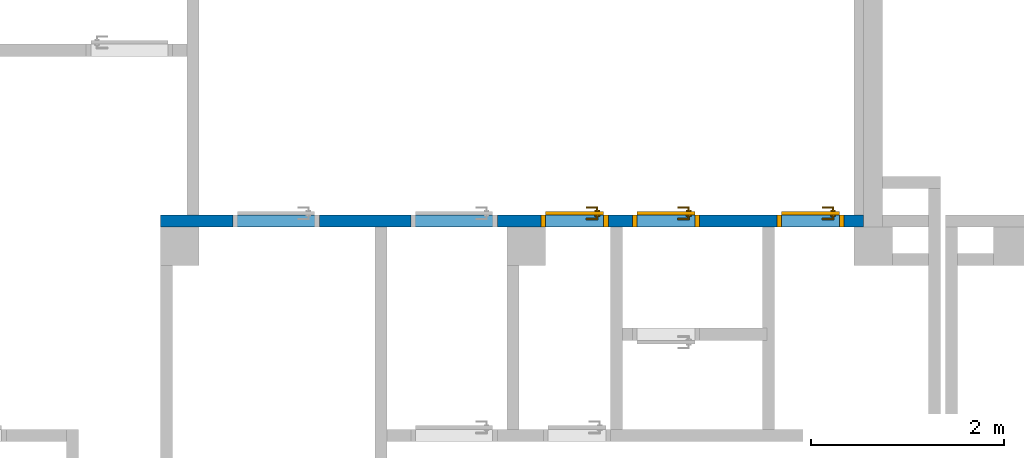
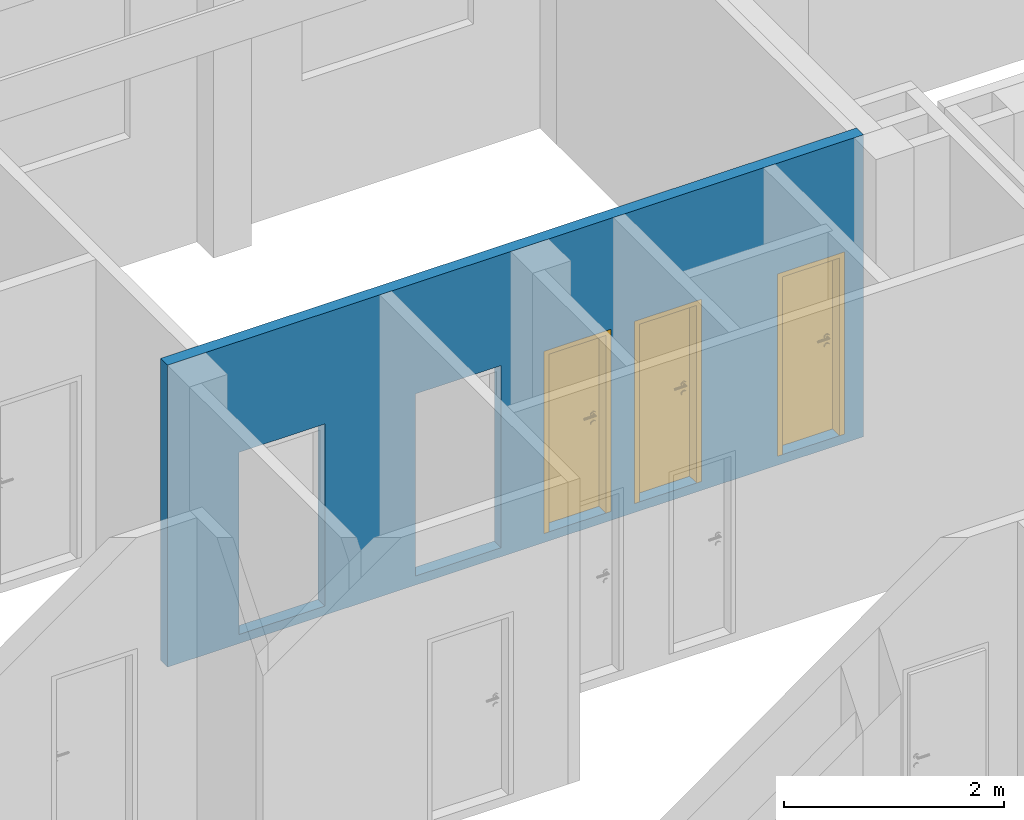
# One storey, part 16 of 37: 3 doors, 1 wall, 5 openings.
"""IFC4 building model written with IfcOpenShell, lengths in metres."""

import ifcopenshell
import ifcopenshell.guid

model = None  # the IFC model being written
_history = None  # IfcOwnerHistory: only IFC2X3 demands one
_inside = {}  # id of a spatial element -> (the spatial element, [elements in it])
_under = {}  # id of a project, library or spatial element -> (it, [spatial elements below it])
_declared = {}  # id of a project -> (the project, [libraries it declares])
_typed = {}  # id of a type object -> (the type object, [elements of that type])
_made_of = {}  # id of a material, layer set ... -> (it, [elements and type objects made of it])


def new_model(schema):
    """Start an empty IFC model of exactly this schema.

    Asked for "IFC4X3", IfcOpenShell would pick the latest addendum, in which some entities
    have other attributes; the version numbers below select the first issue.
    IFC2X3 requires an IfcOwnerHistory on every rooted entity: one is made here for all.
    """
    global model, _history
    if schema == "IFC4X3":
        model = ifcopenshell.file(schema_version=(4, 3, 0, 0))
    else:
        model = ifcopenshell.file(schema=schema)
    _inside.clear()
    _under.clear()
    _declared.clear()
    _typed.clear()
    _made_of.clear()
    _history = None
    if model.schema == "IFC2X3":
        org = make("IfcOrganization", Name="unknown")
        user = make(
            "IfcPersonAndOrganization",
            ThePerson=make("IfcPerson", FamilyName="unknown"),
            TheOrganization=org,
        )
        app = make(
            "IfcApplication",
            ApplicationDeveloper=org,
            Version="unknown",
            ApplicationFullName="unknown",
            ApplicationIdentifier="unknown",
        )
        _history = make(
            "IfcOwnerHistory",
            OwningUser=user,
            OwningApplication=app,
            ChangeAction="ADDED",
            CreationDate=0,
        )
    return model


def make(cls, **values):
    """One entity of the class cls with the attributes given. An attribute that is None is left unset."""
    return model.create_entity(
        cls, **{name: value for name, value in values.items() if value is not None}
    )


def entity(cls, *values):
    """Any entity or typed value of the class cls, its attributes in the order of the schema. None: left unset."""
    e = model.create_entity(cls)
    for i, value in enumerate(values):
        if value is not None:
            e[i] = value
    return e


def rooted(cls, **values):
    """An entity with a GlobalId (a new one), such as an element, a storey or a relation."""
    return make(cls, GlobalId=ifcopenshell.guid.new(), OwnerHistory=_history, **values)


def si_unit(unit_type, name, prefix=None):
    """IfcSIUnit, for example si_unit("LENGTHUNIT", "METRE", prefix="MILLI")."""
    return make("IfcSIUnit", UnitType=unit_type, Prefix=prefix, Name=name)


def converted_unit(unit_type, name, factor, base, dimensions=None, offset=None):
    """IfcConversionBasedUnit, such as the inch: factor (a typed value) times the base unit."""
    return make(
        "IfcConversionBasedUnit"
        if offset is None
        else "IfcConversionBasedUnitWithOffset",
        ConversionOffset=offset,
        Dimensions=None
        if dimensions is None
        else entity("IfcDimensionalExponents", *dimensions),
        UnitType=unit_type,
        Name=name,
        ConversionFactor=make(
            "IfcMeasureWithUnit", ValueComponent=factor, UnitComponent=base
        ),
    )


def derived_unit(unit_type, elements):
    """IfcDerivedUnit: a product of units, each with its exponent."""
    return make(
        "IfcDerivedUnit",
        Elements=[
            make("IfcDerivedUnitElement", Unit=unit, Exponent=power)
            for unit, power in elements
        ],
        UnitType=unit_type,
    )


def assignment(units):
    """IfcUnitAssignment: the units of a project."""
    return None if units is None else make("IfcUnitAssignment", Units=units)


def point(xyz):
    """IfcCartesianPoint."""
    return None if xyz is None else make("IfcCartesianPoint", Coordinates=xyz)


def direction(xyz):
    """IfcDirection."""
    return None if xyz is None else make("IfcDirection", DirectionRatios=xyz)


def frame(location, z_axis=None, x_axis=None):
    """IfcAxis2Placement3D, a coordinate frame: its origin and axes. An axis left out is left unset."""
    return make(
        "IfcAxis2Placement3D",
        Location=point(location),
        Axis=direction(z_axis),
        RefDirection=direction(x_axis),
    )


def frame_2d(location, x_axis=None):
    """IfcAxis2Placement2D, a coordinate frame in the plane: its origin and x axis."""
    return make(
        "IfcAxis2Placement2D", Location=point(location), RefDirection=direction(x_axis)
    )


def origin():
    """The frame at (0, 0, 0) with its axes left unset."""
    return frame((0.0, 0.0, 0.0))


def origin_with_axes():
    """The frame at (0, 0, 0) with the z axis (0, 0, 1) and the x axis (1, 0, 0) written out."""
    return frame((0.0, 0.0, 0.0), z_axis=(0.0, 0.0, 1.0), x_axis=(1.0, 0.0, 0.0))


def place(relative_to, where):
    """IfcLocalPlacement: puts the frame where relative to a parent placement (None: the world)."""
    return make(
        "IfcLocalPlacement", PlacementRelTo=relative_to, RelativePlacement=where
    )


def context(
    kind, dimensions, precision=None, world=None, true_north=None, identifier=None
):
    """IfcGeometricRepresentationContext, for example the 3D "Model" context."""
    return make(
        "IfcGeometricRepresentationContext",
        ContextIdentifier=identifier,
        ContextType=kind,
        CoordinateSpaceDimension=dimensions,
        Precision=precision,
        WorldCoordinateSystem=world,
        TrueNorth=true_north,
    )


def subcontext(parent, identifier, kind, view, scale=None):
    """IfcGeometricRepresentationSubContext, for example "Body" below "Model"."""
    return make(
        "IfcGeometricRepresentationSubContext",
        ContextIdentifier=identifier,
        ContextType=kind,
        ParentContext=parent,
        TargetScale=scale,
        TargetView=view,
    )


def project(units=None, contexts=None):
    """IfcProject with its units and contexts."""
    return rooted(
        "IfcProject",
        Name="project",
        RepresentationContexts=contexts,
        UnitsInContext=assignment(units),
    )


def spatial(cls, under=None, at=None, **own):
    """A site, building, storey or space (cls), placed at a placement, below another one or the project."""
    s = rooted(cls, ObjectPlacement=at, **own)
    if under is not None:
        _under.setdefault(under.id(), (under, []))[1].append(s)
    return s


def polyline(points):
    """IfcPolyline through the points."""
    return make("IfcPolyline", Points=[point(p) for p in points])


def profile(cls, at=None, kind="AREA", **sizes):
    """A parametric profile (cls). Its sizes go by their IFC names, for example OverallWidth=200.0."""
    return make(cls, ProfileType=kind, Position=at, **sizes)


def rectangle(**sizes):
    """IfcRectangleProfileDef."""
    return profile("IfcRectangleProfileDef", **sizes)


def outline(outer, holes=None, kind="AREA"):
    """IfcArbitraryClosedProfileDef: a profile drawn as a closed curve; with holes, ...WithVoids."""
    if holes is None:
        return make("IfcArbitraryClosedProfileDef", ProfileType=kind, OuterCurve=outer)
    return make(
        "IfcArbitraryProfileDefWithVoids",
        ProfileType=kind,
        OuterCurve=outer,
        InnerCurves=holes,
    )


def extrude(swept, where, along, depth):
    """IfcExtrudedAreaSolid: the profile swept, set in the frame where, extruded along a direction by depth."""
    return make(
        "IfcExtrudedAreaSolid",
        SweptArea=swept,
        Position=where,
        ExtrudedDirection=direction(along),
        Depth=depth,
    )


def faces_of(points, faces, orient=None, outer=None):
    """IfcFace entities. A face is a list of loops; a loop is a list of indices into points, from 0.

    orient and outer hold one flag for each loop. By default every Orientation is true, the
    first loop of a face is its IfcFaceOuterBound and the others are IfcFaceBound.
    """
    made = []
    for i, loops in enumerate(faces):
        bounds = []
        for j, loop in enumerate(loops):
            is_outer = j == 0 if outer is None else outer[i][j]
            bounds.append(
                make(
                    "IfcFaceOuterBound" if is_outer else "IfcFaceBound",
                    Bound=make("IfcPolyLoop", Polygon=[points[k] for k in loop]),
                    Orientation=True if orient is None else orient[i][j],
                )
            )
        made.append(make("IfcFace", Bounds=bounds))
    return made


def closed_shell(faces, orient=None, outer=None):
    """The faces of one IfcClosedShell. faceted_brep and surface_model build it on their shared points."""
    return ("IfcClosedShell", faces, orient, outer)


def open_shell(faces, orient=None, outer=None):
    """The faces of one IfcOpenShell. surface_model builds it on its shared points."""
    return ("IfcOpenShell", faces, orient, outer)


def surface_model(cls, points, shells):
    """IfcFaceBasedSurfaceModel or IfcShellBasedSurfaceModel (cls): surfaces that need not close."""
    shared = [point(p) for p in points]
    made = [make(c, CfsFaces=faces_of(shared, fs, o, b)) for c, fs, o, b in shells]
    if cls == "IfcFaceBasedSurfaceModel":
        return make(cls, FbsmFaces=made)
    return make(cls, SbsmBoundary=made)


def shape(context_of_items, identifier, shape_type, items):
    """IfcShapeRepresentation: the items that make up one representation, for example the "Body"."""
    return make(
        "IfcShapeRepresentation",
        ContextOfItems=context_of_items,
        RepresentationIdentifier=identifier,
        RepresentationType=shape_type,
        Items=items,
    )


def source(mapping_origin, context_of_items, identifier, shape_type, items):
    """IfcRepresentationMap: a shape defined once, which mapped items show again and again."""
    return make(
        "IfcRepresentationMap",
        MappingOrigin=mapping_origin,
        MappedRepresentation=shape(context_of_items, identifier, shape_type, items),
    )


def transform(
    local_origin,
    x_axis=None,
    y_axis=None,
    z_axis=None,
    scale=None,
    scale2=None,
    scale3=None,
    uniform=True,
):
    """IfcCartesianTransformationOperator3D, or its non-uniform kind. x_axis, y_axis, z_axis: its Axis1, 2, 3."""
    if uniform:
        return make(
            "IfcCartesianTransformationOperator3D",
            Axis1=direction(x_axis),
            Axis2=direction(y_axis),
            LocalOrigin=point(local_origin),
            Scale=scale,
            Axis3=direction(z_axis),
        )
    return make(
        "IfcCartesianTransformationOperator3DnonUniform",
        Axis1=direction(x_axis),
        Axis2=direction(y_axis),
        LocalOrigin=point(local_origin),
        Scale=scale,
        Axis3=direction(z_axis),
        Scale2=scale2,
        Scale3=scale3,
    )


def mapped(mapping_source, mapping_target):
    """IfcMappedItem: shows the shape of a source again, moved by a transform."""
    return make(
        "IfcMappedItem", MappingSource=mapping_source, MappingTarget=mapping_target
    )


def material(Name=None, Category=None):
    """IfcMaterial."""
    return make("IfcMaterial", Name=Name, Category=Category)


def layer(
    of_material, thickness, ventilated=None, Name=None, Category=None, Priority=None
):
    """IfcMaterialLayer: one layer of a wall or slab, of a material (None: an air gap)."""
    return make(
        "IfcMaterialLayer",
        Material=of_material,
        LayerThickness=thickness,
        IsVentilated=ventilated,
        Name=Name,
        Category=Category,
        Priority=Priority,
    )


def layer_set(layers, Name=None):
    """IfcMaterialLayerSet."""
    return make("IfcMaterialLayerSet", MaterialLayers=layers, LayerSetName=Name)


def layer_usage(for_layer_set, set_direction, sense, offset, extent=None):
    """IfcMaterialLayerSetUsage: how a layer set lies in its element."""
    return make(
        "IfcMaterialLayerSetUsage",
        ForLayerSet=for_layer_set,
        LayerSetDirection=set_direction,
        DirectionSense=sense,
        OffsetFromReferenceLine=offset,
        ReferenceExtent=extent,
    )


def made_of(thing, what):
    """Note that an element or type object is made of a material, layer set ...; save() writes the relation."""
    if what is not None:
        _made_of.setdefault(what.id(), (what, []))[1].append(thing)
    return thing


def type_object(cls, material=None, **own):
    """A type object (cls), such as IfcWallType, which elements share."""
    return made_of(rooted(cls, **own), material)


def element(
    cls,
    number,
    at=None,
    inside=None,
    cuts=None,
    type_object=None,
    material=None,
    context=None,
    identifier="Body",
    shape_type=None,
    held_by="IfcProductDefinitionShape",
    body=None,
    shapes=None,
    **own,
):
    """One element of the class cls, such as IfcWall. Its Tag is "e" and its number.

    at: its placement. inside: the storey or other place that contains it. cuts: it is an
    opening in that element (IfcRelVoidsElement). A single representation is given by context,
    identifier, shape_type and body (its items); several are given by shapes. held_by: the class
    of the entity that holds the representations. save() writes the other relations.
    """
    e = rooted(cls, Tag="e%d" % number, ObjectPlacement=at, **own)
    if body is not None:
        shapes = [shape(context, identifier, shape_type, body)]
    if shapes is not None:
        e.Representation = make(held_by, Representations=shapes)
    if inside is not None:
        _inside.setdefault(inside.id(), (inside, []))[1].append(e)
    if cuts is not None:
        rooted(
            "IfcRelVoidsElement", RelatingBuildingElement=cuts, RelatedOpeningElement=e
        )
    if type_object is not None:
        _typed.setdefault(type_object.id(), (type_object, []))[1].append(e)
    return made_of(e, material)


def fill(opening, filler):
    """IfcRelFillsElement: the door or window that sits in an opening."""
    return rooted(
        "IfcRelFillsElement",
        RelatingOpeningElement=opening,
        RelatedBuildingElement=filler,
    )


def aggregate(whole, parts):
    """IfcRelAggregates: a whole, such as a stair, and the parts it consists of."""
    return rooted("IfcRelAggregates", RelatingObject=whole, RelatedObjects=parts)


def save(model, path):
    """Write the relations noted so far, then the file.

    IfcRelAggregates (storeys below a building ...), IfcRelContainedInSpatialStructure (elements
    in a storey), IfcRelDefinesByType, IfcRelAssociatesMaterial and IfcRelDeclares: one each for
    every whole, place, type object, material and project.
    """
    for whole, parts in _under.values():
        aggregate(whole, parts)
    for where, things in _inside.values():
        rooted(
            "IfcRelContainedInSpatialStructure",
            RelatedElements=things,
            RelatingStructure=where,
        )
    for kind, things in _typed.values():
        rooted("IfcRelDefinesByType", RelatedObjects=things, RelatingType=kind)
    for what, things in _made_of.values():
        rooted("IfcRelAssociatesMaterial", RelatedObjects=things, RelatingMaterial=what)
    for by, libraries in _declared.values():
        rooted("IfcRelDeclares", RelatingContext=by, RelatedDefinitions=libraries)
    model.write(path)


model = new_model("IFC4")

# Units and contexts
model_context = context("Model", 3, precision=1e-05, world=origin())
body_context = subcontext(model_context, "Body", "Model", "MODEL_VIEW")
ifc_project = project(units=[si_unit("LENGTHUNIT", "METRE"), si_unit("AREAUNIT", "SQUARE_METRE"), si_unit("VOLUMEUNIT", "CUBIC_METRE"), si_unit("MASSUNIT", "GRAM", prefix="KILO"), converted_unit("PLANEANGLEUNIT", "DEGREE", entity("IfcPlaneAngleMeasure", 0.0174532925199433), si_unit("PLANEANGLEUNIT", "RADIAN"), dimensions=[0, 0, 0, 0, 0, 0, 0]), derived_unit("THERMALTRANSMITTANCEUNIT", [(si_unit("POWERUNIT", "WATT"), 1), (si_unit("THERMODYNAMICTEMPERATUREUNIT", "KELVIN"), -1), (si_unit("LENGTHUNIT", "METRE"), -2)]), derived_unit("VOLUMETRICFLOWRATEUNIT", [(si_unit("LENGTHUNIT", "METRE"), 3), (converted_unit("TIMEUNIT", "hour", entity("IfcTimeMeasure", 3600.0), si_unit("TIMEUNIT", "SECOND"), dimensions=[0, 0, 1, 0, 0, 0, 0]), -1), (si_unit("LENGTHUNIT", "METRE"), -1)])], contexts=[model_context])

# Site, building, storey
site_placement = place(None, origin())
site = spatial("IfcSite", under=ifc_project, at=site_placement, Name="3. ASŘ", CompositionType="ELEMENT")
building_placement = place(site_placement, origin())
building = spatial("IfcBuilding", under=site, at=building_placement, Name="Pavilon B", CompositionType="ELEMENT")
storey_placement = place(building_placement, origin())
storey = spatial("IfcBuildingStorey", under=building, at=storey_placement, Name="Půdorys 1.NP", CompositionType="ELEMENT", Elevation=0.0)

# Wall, openings, doors
ifc_material = material(Name="ZDIVO Z CDm")
ifc_layer = layer(ifc_material, 0.125)
ifc_layer_set = layer_set([ifc_layer])
ifc_layer_usage = layer_usage(ifc_layer_set, "AXIS2", "POSITIVE", 0.0)
wall_placement = place(storey_placement, frame((24.4, -21.4, -0.1)))
wall = element("IfcWall", 1, at=wall_placement, inside=storey, material=ifc_layer_usage, Name="ZDIVO Z CDm", context=body_context, shape_type="SweptSolid", body=[
    extrude(rectangle(XDim=7.3, YDim=0.125, at=frame_2d((3.65, 0.0625), x_axis=(1.0, 0.0))), origin_with_axes(), (0.0, 0.0, 1.0), 3.35),
])
opening_1_placement = place(wall_placement, frame((4.65, 0.125, 0.1), z_axis=(0.0, -1.0, 0.0), x_axis=(0.0, 0.0, 1.0)))
opening_1 = element("IfcOpeningElement", 2, at=opening_1_placement, cuts=wall, Name="Dveřní otvor", ObjectType="Opening", context=body_context, shape_type="SweptSolid", body=[
    extrude(outline(polyline([(0.0, 0.7), (2.02, 0.7), (2.02, 0.0), (0.0, 0.0), (0.0, 0.7)])), origin_with_axes(), (0.0, 0.0, 1.0), 0.125),
])
opening_2_placement = place(wall_placement, frame((5.6, 0.125, 0.1), z_axis=(0.0, -1.0, 0.0), x_axis=(0.0, 0.0, 1.0)))
opening_2 = element("IfcOpeningElement", 3, at=opening_2_placement, cuts=wall, Name="Dveřní otvor", ObjectType="Opening", context=body_context, shape_type="SweptSolid", body=[
    extrude(outline(polyline([(0.0, 0.7), (2.02, 0.7), (2.02, 0.0), (0.0, 0.0), (0.0, 0.7)])), origin_with_axes(), (0.0, 0.0, 1.0), 0.125),
])
opening_3_placement = place(wall_placement, frame((7.1, 0.125, 0.1), z_axis=(0.0, -1.0, 0.0), x_axis=(0.0, 0.0, 1.0)))
opening_3 = element("IfcOpeningElement", 4, at=opening_3_placement, cuts=wall, Name="Dveřní otvor", ObjectType="Opening", context=body_context, shape_type="SweptSolid", body=[
    extrude(outline(polyline([(0.0, 0.7), (2.02, 0.7), (2.02, 0.0), (0.0, 0.0), (0.0, 0.7)])), origin_with_axes(), (0.0, 0.0, 1.0), 0.125),
])
opening_4_placement = place(wall_placement, frame((1.65, 0.125, 0.1), z_axis=(0.0, -1.0, 0.0), x_axis=(0.0, 0.0, 1.0)))
element("IfcOpeningElement", 5, at=opening_4_placement, cuts=wall, Name="Dveřní otvor", ObjectType="Opening", context=body_context, shape_type="SweptSolid", body=[
    extrude(outline(polyline([(0.0, 0.9), (2.02, 0.9), (2.02, 0.0), (0.0, 0.0), (0.0, 0.9)])), origin_with_axes(), (0.0, 0.0, 1.0), 0.125),
])
opening_5_placement = place(wall_placement, frame((3.5, 0.125, 0.1), z_axis=(0.0, -1.0, 0.0), x_axis=(0.0, 0.0, 1.0)))
element("IfcOpeningElement", 6, at=opening_5_placement, cuts=wall, Name="Dveřní otvor", ObjectType="Opening", context=body_context, shape_type="SweptSolid", body=[
    extrude(outline(polyline([(0.0, 0.9), (2.02, 0.9), (2.02, 0.0), (0.0, 0.0), (0.0, 0.9)])), origin_with_axes(), (0.0, 0.0, 1.0), 0.125),
])
door_type_1 = type_object("IfcDoorType", Name="D101", OperationType="NOTDEFINED", ParameterTakesPrecedence=False, PredefinedType="DOOR")
shared_shape = source(origin_with_axes(), body_context, "Body", "SurfaceModel", [
    surface_model("IfcShellBasedSurfaceModel", [(0.0, 0.125, 2.02), (0.0, 0.125, -7.65404249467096e-18), (0.05, 0.125, -7.65404249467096e-18), (0.05, 0.125, 2.02), (0.0, 0.0, 7.65404249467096e-18), (0.0, 2.41584530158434e-16, 2.02), (0.05, 2.41584530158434e-16, 2.02), (0.05, 0.0, 7.65404249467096e-18)], [closed_shell([[[0, 1, 2, 3]], [[4, 5, 6, 7]], [[1, 0, 5, 4]], [[2, 1, 4, 7]], [[3, 2, 7, 6]], [[0, 3, 6, 5]]], orient=[[False], [False], [False], [False], [False], [False]])]),
    surface_model("IfcShellBasedSurfaceModel", [(0.65, 0.125, 2.02), (0.65, 0.125, -7.65404249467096e-18), (0.7, 0.125, -7.65404249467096e-18), (0.7, 0.125, 2.02), (0.65, 0.0, 7.65404249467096e-18), (0.65, 2.41584530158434e-16, 2.02), (0.7, 2.41584530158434e-16, 2.02), (0.7, 0.0, 7.65404249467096e-18)], [closed_shell([[[0, 1, 2, 3]], [[4, 5, 6, 7]], [[1, 0, 5, 4]], [[2, 1, 4, 7]], [[3, 2, 7, 6]], [[0, 3, 6, 5]]], orient=[[False], [False], [False], [False], [False], [False]])]),
    surface_model("IfcShellBasedSurfaceModel", [(0.05, 0.125, 2.02), (0.05, 0.125, 1.97), (0.65, 0.125, 1.97), (0.65, 0.125, 2.02), (0.05, 2.41584530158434e-16, 1.97), (0.05, 2.41584530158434e-16, 2.02), (0.65, 2.41584530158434e-16, 2.02), (0.65, 2.41584530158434e-16, 1.97)], [closed_shell([[[0, 1, 2, 3]], [[4, 5, 6, 7]], [[1, 0, 5, 4]], [[2, 1, 4, 7]], [[3, 2, 7, 6]], [[0, 3, 6, 5]]], orient=[[False], [False], [False], [False], [False], [False]])]),
    surface_model("IfcShellBasedSurfaceModel", [(0.05, 0.165, 1.97), (0.05, 0.165, -1.25526296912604e-17), (0.65, 0.165, -1.25526296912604e-17), (0.65, 0.165, 1.97), (0.05, 0.125, -7.65404249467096e-18), (0.05, 0.125, 1.97), (0.65, 0.125, 1.97), (0.65, 0.125, -7.65404249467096e-18)], [closed_shell([[[0, 1, 2, 3]], [[4, 5, 6, 7]], [[1, 0, 5, 4]], [[2, 1, 4, 7]], [[3, 2, 7, 6]], [[0, 3, 6, 5]]], orient=[[False], [False], [False], [False], [False], [False]])]),
    surface_model("IfcShellBasedSurfaceModel", [(0.608815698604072, 0.125, 0.93625), (0.6125, 0.125, 0.95), (0.608815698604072, 0.125, 0.96375), (0.59875, 0.125, 0.973815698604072), (0.585, 0.125, 0.9775), (0.57125, 0.125, 0.973815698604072), (0.561184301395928, 0.125, 0.96375), (0.5575, 0.125, 0.95), (0.561184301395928, 0.125, 0.93625), (0.57125, 0.125, 0.926184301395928), (0.585, 0.125, 0.9225), (0.59875, 0.125, 0.926184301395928), (0.6125, 0.1125, 0.95), (0.608815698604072, 0.1125, 0.93625), (0.59875, 0.1125, 0.926184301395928), (0.585, 0.1125, 0.9225), (0.57125, 0.1125, 0.926184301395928), (0.561184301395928, 0.1125, 0.93625), (0.5575, 0.1125, 0.95), (0.561184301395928, 0.1125, 0.96375), (0.57125, 0.1125, 0.973815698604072), (0.585, 0.1125, 0.9775), (0.59875, 0.1125, 0.973815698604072), (0.608815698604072, 0.1125, 0.96375)], [closed_shell([[[0, 1, 2, 3, 4, 5, 6, 7, 8, 9, 10, 11]], [[12, 13, 14, 15, 16, 17, 18, 19, 20, 21, 22, 23]], [[1, 0, 13, 12]], [[2, 1, 12, 23]], [[3, 2, 23, 22]], [[4, 3, 22, 21]], [[5, 4, 21, 20]], [[6, 5, 20, 19]], [[7, 6, 19, 18]], [[8, 7, 18, 17]], [[9, 8, 17, 16]], [[10, 9, 16, 15]], [[11, 10, 15, 14]], [[0, 11, 14, 13]]], orient=[[False], [False], [False], [False], [False], [False], [False], [False], [False], [False], [False], [False], [False], [False]])]),
    surface_model("IfcShellBasedSurfaceModel", [(0.608815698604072, 0.125, 1.03625), (0.6125, 0.125, 1.05), (0.608815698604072, 0.125, 1.06375), (0.59875, 0.125, 1.07381569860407), (0.585, 0.125, 1.0775), (0.57125, 0.125, 1.07381569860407), (0.561184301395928, 0.125, 1.06375), (0.5575, 0.125, 1.05), (0.561184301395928, 0.125, 1.03625), (0.57125, 0.125, 1.02618430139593), (0.585, 0.125, 1.0225), (0.59875, 0.125, 1.02618430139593), (0.6125, 0.1125, 1.05), (0.608815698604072, 0.1125, 1.03625), (0.59875, 0.1125, 1.02618430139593), (0.585, 0.1125, 1.0225), (0.57125, 0.1125, 1.02618430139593), (0.561184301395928, 0.1125, 1.03625), (0.5575, 0.1125, 1.05), (0.561184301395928, 0.1125, 1.06375), (0.57125, 0.1125, 1.07381569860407), (0.585, 0.1125, 1.0775), (0.59875, 0.1125, 1.07381569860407), (0.608815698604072, 0.1125, 1.06375)], [closed_shell([[[0, 1, 2, 3, 4, 5, 6, 7, 8, 9, 10, 11]], [[12, 13, 14, 15, 16, 17, 18, 19, 20, 21, 22, 23]], [[1, 0, 13, 12]], [[2, 1, 12, 23]], [[3, 2, 23, 22]], [[4, 3, 22, 21]], [[5, 4, 21, 20]], [[6, 5, 20, 19]], [[7, 6, 19, 18]], [[8, 7, 18, 17]], [[9, 8, 17, 16]], [[10, 9, 16, 15]], [[11, 10, 15, 14]], [[0, 11, 14, 13]]], orient=[[False], [False], [False], [False], [False], [False], [False], [False], [False], [False], [False], [False], [False], [False]])]),
    surface_model("IfcShellBasedSurfaceModel", [(0.585, 0.125, 1.06), (0.58, 0.125, 1.05866025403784), (0.576339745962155, 0.125, 1.055), (0.575, 0.125, 1.05), (0.576339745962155, 0.125, 1.045), (0.58, 0.125, 1.04133974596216), (0.585, 0.125, 1.04), (0.59, 0.125, 1.04133974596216), (0.593660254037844, 0.125, 1.045), (0.595, 0.125, 1.05), (0.593660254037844, 0.125, 1.055), (0.59, 0.125, 1.05866025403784), (0.59, 0.0800000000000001, 1.05866025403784), (0.585, 0.0850000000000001, 1.06), (0.593660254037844, 0.0763397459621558, 1.055), (0.595, 0.0750000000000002, 1.05), (0.593660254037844, 0.0763397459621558, 1.045), (0.59, 0.0800000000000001, 1.04133974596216), (0.585, 0.0850000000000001, 1.04), (0.58, 0.0900000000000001, 1.04133974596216), (0.576339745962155, 0.0936602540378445, 1.045), (0.575, 0.0950000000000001, 1.05), (0.576339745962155, 0.0936602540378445, 1.055), (0.58, 0.0900000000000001, 1.05866025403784), (0.47, 0.0800000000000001, 1.05866025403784), (0.47, 0.0850000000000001, 1.06), (0.47, 0.0763397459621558, 1.055), (0.47, 0.0750000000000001, 1.05), (0.47, 0.0763397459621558, 1.045), (0.47, 0.0800000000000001, 1.04133974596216), (0.47, 0.0850000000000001, 1.04), (0.47, 0.0900000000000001, 1.04133974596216), (0.47, 0.0936602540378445, 1.045), (0.47, 0.0950000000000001, 1.05), (0.47, 0.0936602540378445, 1.055), (0.47, 0.0900000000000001, 1.05866025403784)], [open_shell([[[0, 1, 2, 3, 4, 5, 6, 7, 8, 9, 10, 11]], [[0, 11, 12, 13]], [[11, 10, 14, 12]], [[10, 9, 15, 14]], [[9, 8, 16, 15]], [[8, 7, 17, 16]], [[7, 6, 18, 17]], [[6, 5, 19, 18]], [[5, 4, 20, 19]], [[4, 3, 21, 20]], [[3, 2, 22, 21]], [[2, 1, 23, 22]], [[1, 0, 13, 23]], [[13, 12, 24, 25]], [[12, 14, 26, 24]], [[14, 15, 27, 26]], [[15, 16, 28, 27]], [[16, 17, 29, 28]], [[17, 18, 30, 29]], [[18, 19, 31, 30]], [[19, 20, 32, 31]], [[20, 21, 33, 32]], [[21, 22, 34, 33]], [[22, 23, 35, 34]], [[23, 13, 25, 35]]], orient=[[False], [False], [False], [False], [False], [False], [False], [False], [False], [False], [False], [False], [False], [False], [False], [False], [False], [False], [False], [False], [False], [False], [False], [False], [False]])]),
    surface_model("IfcShellBasedSurfaceModel", [(0.608815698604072, 0.165, 0.93625), (0.59875, 0.165, 0.926184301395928), (0.585, 0.165, 0.9225), (0.57125, 0.165, 0.926184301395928), (0.561184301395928, 0.165, 0.93625), (0.5575, 0.165, 0.95), (0.561184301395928, 0.165, 0.96375), (0.57125, 0.165, 0.973815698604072), (0.585, 0.165, 0.9775), (0.59875, 0.165, 0.973815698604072), (0.608815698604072, 0.165, 0.96375), (0.6125, 0.165, 0.95), (0.6125, 0.1775, 0.95), (0.608815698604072, 0.1775, 0.96375), (0.59875, 0.1775, 0.973815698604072), (0.585, 0.1775, 0.9775), (0.57125, 0.1775, 0.973815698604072), (0.561184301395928, 0.1775, 0.96375), (0.5575, 0.1775, 0.95), (0.561184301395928, 0.1775, 0.93625), (0.57125, 0.1775, 0.926184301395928), (0.585, 0.1775, 0.9225), (0.59875, 0.1775, 0.926184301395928), (0.608815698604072, 0.1775, 0.93625)], [closed_shell([[[0, 1, 2, 3, 4, 5, 6, 7, 8, 9, 10, 11]], [[12, 13, 14, 15, 16, 17, 18, 19, 20, 21, 22, 23]], [[11, 12, 23, 0]], [[10, 13, 12, 11]], [[9, 14, 13, 10]], [[8, 15, 14, 9]], [[7, 16, 15, 8]], [[6, 17, 16, 7]], [[5, 18, 17, 6]], [[4, 19, 18, 5]], [[3, 20, 19, 4]], [[2, 21, 20, 3]], [[1, 22, 21, 2]], [[0, 23, 22, 1]]], orient=[[False], [False], [False], [False], [False], [False], [False], [False], [False], [False], [False], [False], [False], [False]])]),
    surface_model("IfcShellBasedSurfaceModel", [(0.608815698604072, 0.165, 1.03625), (0.59875, 0.165, 1.02618430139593), (0.585, 0.165, 1.0225), (0.57125, 0.165, 1.02618430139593), (0.561184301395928, 0.165, 1.03625), (0.5575, 0.165, 1.05), (0.561184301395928, 0.165, 1.06375), (0.57125, 0.165, 1.07381569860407), (0.585, 0.165, 1.0775), (0.59875, 0.165, 1.07381569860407), (0.608815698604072, 0.165, 1.06375), (0.6125, 0.165, 1.05), (0.6125, 0.1775, 1.05), (0.608815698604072, 0.1775, 1.06375), (0.59875, 0.1775, 1.07381569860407), (0.585, 0.1775, 1.0775), (0.57125, 0.1775, 1.07381569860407), (0.561184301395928, 0.1775, 1.06375), (0.5575, 0.1775, 1.05), (0.561184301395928, 0.1775, 1.03625), (0.57125, 0.1775, 1.02618430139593), (0.585, 0.1775, 1.0225), (0.59875, 0.1775, 1.02618430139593), (0.608815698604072, 0.1775, 1.03625)], [closed_shell([[[0, 1, 2, 3, 4, 5, 6, 7, 8, 9, 10, 11]], [[12, 13, 14, 15, 16, 17, 18, 19, 20, 21, 22, 23]], [[11, 12, 23, 0]], [[10, 13, 12, 11]], [[9, 14, 13, 10]], [[8, 15, 14, 9]], [[7, 16, 15, 8]], [[6, 17, 16, 7]], [[5, 18, 17, 6]], [[4, 19, 18, 5]], [[3, 20, 19, 4]], [[2, 21, 20, 3]], [[1, 22, 21, 2]], [[0, 23, 22, 1]]], orient=[[False], [False], [False], [False], [False], [False], [False], [False], [False], [False], [False], [False], [False], [False]])]),
    surface_model("IfcShellBasedSurfaceModel", [(0.585, 0.165, 1.06), (0.59, 0.165, 1.05866025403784), (0.593660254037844, 0.165, 1.055), (0.595, 0.165, 1.05), (0.593660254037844, 0.165, 1.045), (0.59, 0.165, 1.04133974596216), (0.585, 0.165, 1.04), (0.58, 0.165, 1.04133974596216), (0.576339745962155, 0.165, 1.045), (0.575, 0.165, 1.05), (0.576339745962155, 0.165, 1.055), (0.58, 0.165, 1.05866025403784), (0.585, 0.205, 1.06), (0.59, 0.21, 1.05866025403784), (0.593660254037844, 0.213660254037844, 1.055), (0.595, 0.215, 1.05), (0.593660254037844, 0.213660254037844, 1.045), (0.59, 0.21, 1.04133974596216), (0.585, 0.205, 1.04), (0.58, 0.2, 1.04133974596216), (0.576339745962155, 0.196339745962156, 1.045), (0.575, 0.195, 1.05), (0.576339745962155, 0.196339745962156, 1.055), (0.58, 0.2, 1.05866025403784), (0.47, 0.205, 1.06), (0.47, 0.21, 1.05866025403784), (0.47, 0.213660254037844, 1.055), (0.47, 0.215, 1.05), (0.47, 0.213660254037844, 1.045), (0.47, 0.21, 1.04133974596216), (0.47, 0.205, 1.04), (0.47, 0.2, 1.04133974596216), (0.47, 0.196339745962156, 1.045), (0.47, 0.195, 1.05), (0.47, 0.196339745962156, 1.055), (0.47, 0.2, 1.05866025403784)], [open_shell([[[0, 1, 2, 3, 4, 5, 6, 7, 8, 9, 10, 11]], [[0, 12, 13, 1]], [[1, 13, 14, 2]], [[2, 14, 15, 3]], [[3, 15, 16, 4]], [[4, 16, 17, 5]], [[5, 17, 18, 6]], [[6, 18, 19, 7]], [[7, 19, 20, 8]], [[8, 20, 21, 9]], [[9, 21, 22, 10]], [[10, 22, 23, 11]], [[11, 23, 12, 0]], [[12, 24, 25, 13]], [[13, 25, 26, 14]], [[14, 26, 27, 15]], [[15, 27, 28, 16]], [[16, 28, 29, 17]], [[17, 29, 30, 18]], [[18, 30, 31, 19]], [[19, 31, 32, 20]], [[20, 32, 33, 21]], [[21, 33, 34, 22]], [[22, 34, 35, 23]], [[23, 35, 24, 12]]], orient=[[False], [False], [False], [False], [False], [False], [False], [False], [False], [False], [False], [False], [False], [False], [False], [False], [False], [False], [False], [False], [False], [False], [False], [False], [False]])]),
])
door_1_placement = place(opening_1_placement, frame((0.0, 0.7, 0.125), z_axis=(1.0, 0.0, 0.0), x_axis=(0.0, -1.0, 2.44929359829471e-16)))
door_1 = element("IfcDoor", 7, at=door_1_placement, inside=storey, type_object=door_type_1, Name="D101", OverallHeight=2.02, OverallWidth=0.7, context=body_context, shape_type="MappedRepresentation", body=[
    mapped(shared_shape, transform((0.0, 0.0, 0.0), x_axis=(1.0, 0.0, 0.0), y_axis=(0.0, 1.0, 0.0), z_axis=(0.0, 0.0, 1.0), scale=1.0)),
])
fill(opening_1, door_1)
door_type_2 = type_object("IfcDoorType", Name="D101", OperationType="NOTDEFINED", ParameterTakesPrecedence=False, PredefinedType="DOOR")
door_2_placement = place(opening_2_placement, frame((0.0, 0.7, 0.125), z_axis=(1.0, 0.0, 0.0), x_axis=(0.0, -1.0, 2.44929359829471e-16)))
door_2 = element("IfcDoor", 8, at=door_2_placement, inside=storey, type_object=door_type_2, Name="D101", OverallHeight=2.02, OverallWidth=0.7, context=body_context, shape_type="MappedRepresentation", body=[
    mapped(shared_shape, transform((0.0, 0.0, 0.0), x_axis=(1.0, 0.0, 0.0), y_axis=(0.0, 1.0, 0.0), z_axis=(0.0, 0.0, 1.0), scale=1.0)),
])
fill(opening_2, door_2)
door_type_3 = type_object("IfcDoorType", Name="D101", OperationType="NOTDEFINED", ParameterTakesPrecedence=False, PredefinedType="DOOR")
door_3_placement = place(opening_3_placement, frame((0.0, 0.7, 0.125), z_axis=(1.0, 0.0, 0.0), x_axis=(0.0, -1.0, 2.44929359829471e-16)))
door_3 = element("IfcDoor", 9, at=door_3_placement, inside=storey, type_object=door_type_3, Name="D101", OverallHeight=2.02, OverallWidth=0.7, context=body_context, shape_type="MappedRepresentation", body=[
    mapped(shared_shape, transform((0.0, 0.0, 0.0), x_axis=(1.0, 0.0, 0.0), y_axis=(0.0, 1.0, 0.0), z_axis=(0.0, 0.0, 1.0), scale=1.0)),
])
fill(opening_3, door_3)

save(model, "model.ifc")
